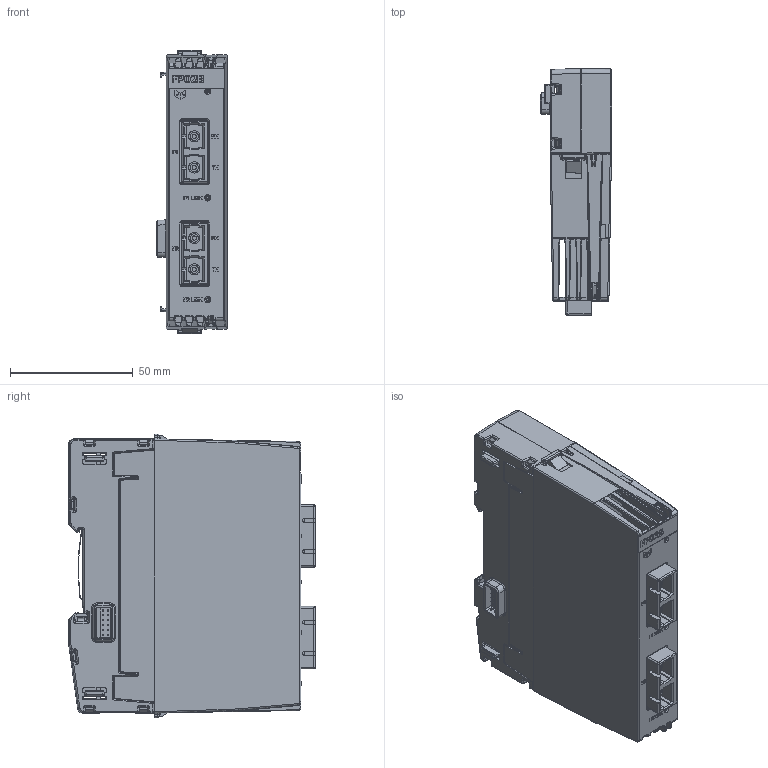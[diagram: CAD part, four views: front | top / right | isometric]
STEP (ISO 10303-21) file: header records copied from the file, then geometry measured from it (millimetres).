
FILE_DESCRIPTION(/* description */ (''),/* implementation_level */ '2;1');
FILE_NAME(/* name */ 'C:\Users\Public\Documents\Autodesk\Inventor 2023\FP02B_Simplified+BackBB81B.stp',/* time_stamp */ '2024-10-23T21:18:54+02:00',/* author */ ('shoma'),/* organization */ (''),/* preprocessor_version */ 'ST-DEVELOPER v19',/* originating_system */ 'Autodesk Inventor 2023',/* authorisation */ '');
FILE_SCHEMA (('AUTOMOTIVE_DESIGN { 1 0 10303 214 3 1 1 }'));
Products named in the file (1): FP02B_Simplified+BackBB81B
Bounding box: 28.9 x 100.39 x 115.5 mm (x, y, z)
Volume: 132281.6 mm3; surface area: 78877.9 mm2
Topology: 9 solids, 9 shells, 5202 faces, 13896 edges, 8683 vertices
Faces by surface type: plane 2711, cylinder 1762, bspline 535, sphere 156, torus 23, cone 15
Full cylindrical faces by diameter (mm): 0.016 x2, 0.3 x38, 0.7 x36, 0.8 x6, 0.85 x24, 0.9 x8, 1 x8, 1.27 x4, 1.4 x4, 1.6 x2, 1.762 x4, 1.9 x4, 2.35 x2, 2.5 x1, 3 x1, 3.25 x2, 3.369 x4, 4.519 x4
Entity records: 180414 total; most frequent: CARTESIAN_POINT 45926, ORIENTED_EDGE 27484, DIRECTION 26243, EDGE_CURVE 13742, LINE 9123, VECTOR 9123, VERTEX_POINT 8683, AXIS2_PLACEMENT_3D 8560
